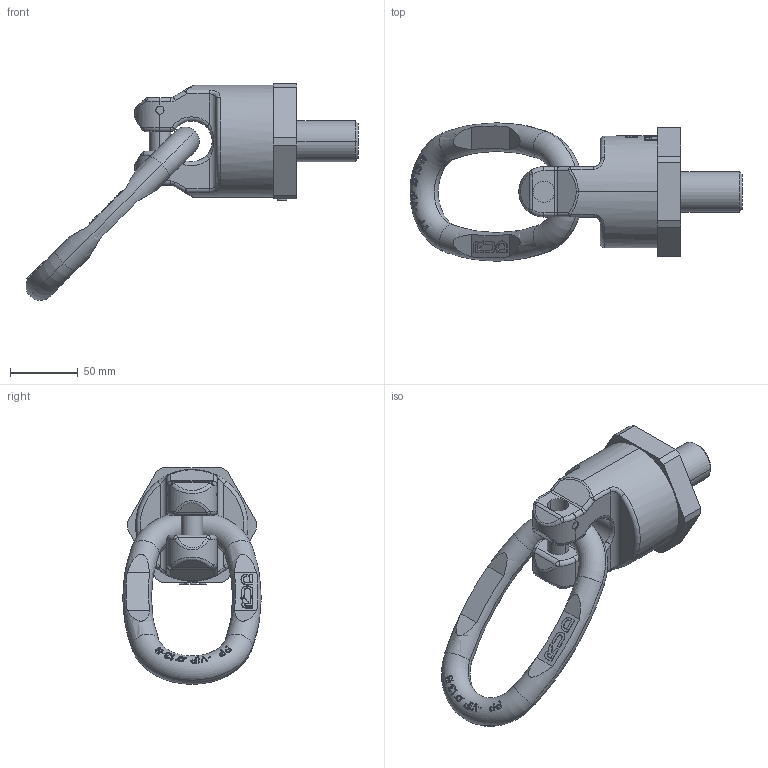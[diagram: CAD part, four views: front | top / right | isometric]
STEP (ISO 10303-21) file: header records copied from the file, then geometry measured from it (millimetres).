
FILE_DESCRIPTION((''),'2;1');
FILE_NAME('001-M31395-P-20_ASM','2018-04-27T',('Anja.Joas'),(''),'PRO/ENGINEER BY PARAMETRIC TECHNOLOGY CORPORATION, 2011490','PRO/ENGINEER BY PARAMETRIC TECHNOLOGY CORPORATION, 2011490','');
FILE_SCHEMA(('CONFIG_CONTROL_DESIGN'));
Length unit declared in the file: millimetre
Products named in the file (4): 001-M31395-P-20; 001-M31395-P-40; 001-M31290-004; 001-M31395-P-20_ASM
Assembly tree (3 placements, depth 2):
  001-M31395-P-20_ASM
    001-M31395-P-20
    001-M31395-P-40
    001-M31290-004
Bounding box: 244.73 x 102 x 159.73 mm (x, y, z)
Volume: 608967.3 mm3; surface area: 82961 mm2
Topology: 3 solids, 3 shells, 912 faces, 2494 edges, 1636 vertices
Faces by surface type: plane 781, cylinder 66, torus 32, bspline 26, sphere 4, cone 2, extrusion 1
Entity records: 30933 total; most frequent: CARTESIAN_POINT 8542, ORIENTED_EDGE 4988, DIRECTION 4053, EDGE_CURVE 2494, VECTOR 1753, LINE 1752, VERTEX_POINT 1636, AXIS2_PLACEMENT_3D 1150
